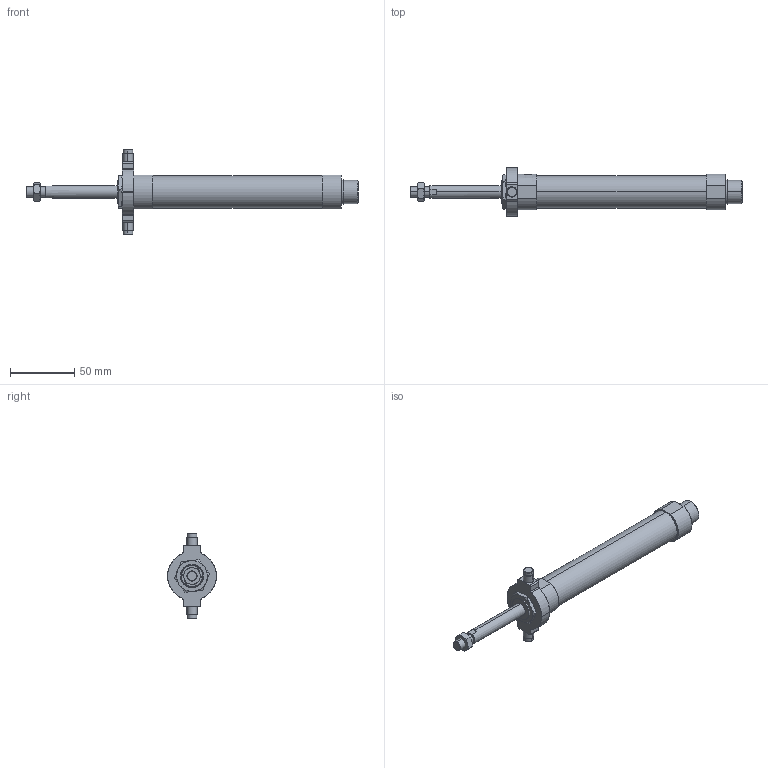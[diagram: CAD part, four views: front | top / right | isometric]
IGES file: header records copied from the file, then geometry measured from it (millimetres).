
Start section: SolidWorks IGES file using analytic representation for surfaces
Global section: file name: C:\Users\Toshiba\Desktop\J#0-20-50-T.IGS; native system: SolidWorks 2014; preprocessor: SolidWorks 2014; author: Toshiba; date: 160308.143053; units: millimetre
Bounding box: 259 x 38 x 66 mm (x, y, z)
Surface area: 24062 mm2 (no closed solid volume)
Topology: 0 solids, 0 shells, 128 faces, 2018 edges, 2018 vertices
Faces by surface type: bspline 69, revolution 59
